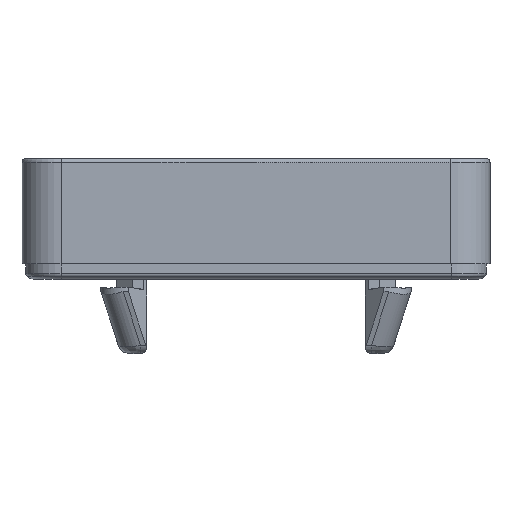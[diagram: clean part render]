
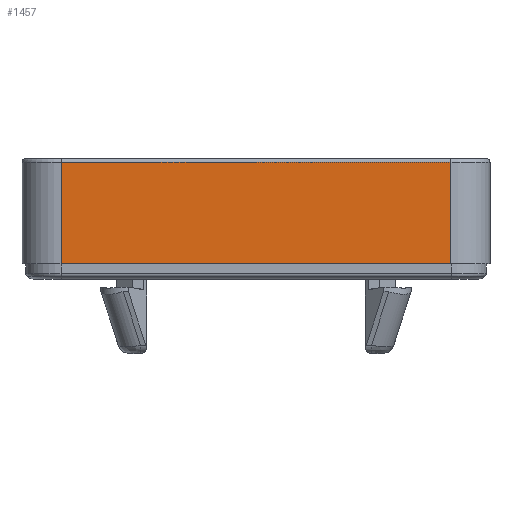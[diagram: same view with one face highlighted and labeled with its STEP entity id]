
A CAD part, left-side view. The second image highlights one B-rep face of the part: STEP entity #1457.
In plain terms, the highlighted planar face has unit normal (-1, 0, 0).
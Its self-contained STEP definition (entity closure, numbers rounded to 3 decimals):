
#1236=CARTESIAN_POINT('',(-74.0,25.,13.0));
#1237=VERTEX_POINT('',#1236);
#1288=CARTESIAN_POINT('',(-74.0,-25.,13.0));
#1289=VERTEX_POINT('',#1288);
#1299=CARTESIAN_POINT('',(-74.0,25.0,13.0));
#1300=DIRECTION('',(0.0,-1.0,0.0));
#1301=VECTOR('',#1300,50.0);
#1302=LINE('',#1299,#1301);
#1303=EDGE_CURVE('',#1237,#1289,#1302,.T.);
#1408=CARTESIAN_POINT('',(-74.0,-25.,0.0));
#1409=VERTEX_POINT('',#1408);
#1410=CARTESIAN_POINT('',(-74.0,-25.,13.0));
#1411=DIRECTION('',(0.0,0.0,-1.0));
#1412=VECTOR('',#1411,13.0);
#1413=LINE('',#1410,#1412);
#1414=EDGE_CURVE('',#1289,#1409,#1413,.T.);
#1434=CARTESIAN_POINT('',(-74.0,-30.,0.0));
#1435=DIRECTION('',(-1.0,0.0,0.0));
#1436=DIRECTION('',(0.0,0.0,1.0));
#1437=AXIS2_PLACEMENT_3D('',#1434,#1435,#1436);
#1438=PLANE('',#1437);
#1439=ORIENTED_EDGE('',*,*,#1303,.F.);
#1440=CARTESIAN_POINT('',(-74.0,25.,0.0));
#1441=VERTEX_POINT('',#1440);
#1442=CARTESIAN_POINT('',(-74.0,25.,0.0));
#1443=DIRECTION('',(0.0,0.0,1.0));
#1444=VECTOR('',#1443,13.0);
#1445=LINE('',#1442,#1444);
#1446=EDGE_CURVE('',#1441,#1237,#1445,.T.);
#1447=ORIENTED_EDGE('',*,*,#1446,.F.);
#1448=CARTESIAN_POINT('',(-74.0,25.,0.0));
#1449=DIRECTION('',(0.0,-1.0,0.0));
#1450=VECTOR('',#1449,50.0);
#1451=LINE('',#1448,#1450);
#1452=EDGE_CURVE('',#1441,#1409,#1451,.T.);
#1453=ORIENTED_EDGE('',*,*,#1452,.T.);
#1454=ORIENTED_EDGE('',*,*,#1414,.F.);
#1455=EDGE_LOOP('',(#1439,#1447,#1453,#1454));
#1456=FACE_OUTER_BOUND('',#1455,.T.);
#1457=ADVANCED_FACE('',(#1456),#1438,.T.);
